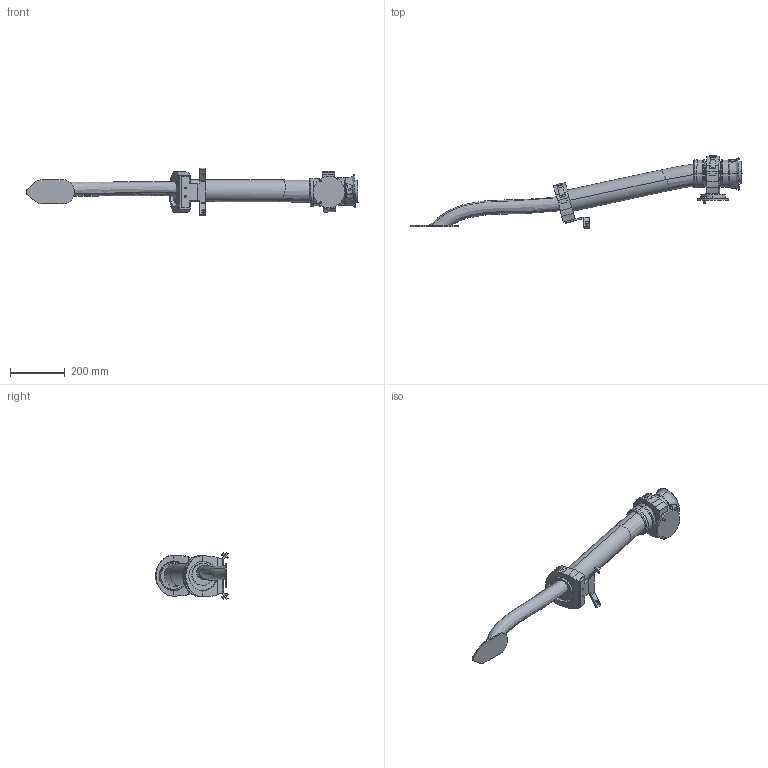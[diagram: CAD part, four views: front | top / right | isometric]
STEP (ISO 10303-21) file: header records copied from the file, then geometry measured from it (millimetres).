
FILE_DESCRIPTION (( 'STEP AP214' ), '1' );
FILE_NAME ('IRB6720-LID_150kg-310_OC_00_LINK04_CABLE.step', '2026-05-26T07:55:48', ( '' ), ( '' ), 'SwSTEP 2.0', 'SolidWorks 2024', '' );
FILE_SCHEMA (( 'AUTOMOTIVE_DESIGN' ));
Length unit declared in the file: millimetre
Products named in the file (1): IRB6720-LID_150kg-310_OC_00_LINK04_CABLE
Bounding box: 1212.1 x 265.02 x 174.65 mm (x, y, z)
Volume: 5966791.3 mm3; surface area: 451000.4 mm2
Topology: 1 solids, 1 shells, 428 faces, 1065 edges, 676 vertices
Faces by surface type: plane 223, cylinder 136, bspline 27, cone 22, torus 16, sphere 4
Entity records: 24558 total; most frequent: CARTESIAN_POINT 14188, ORIENTED_EDGE 2130, DIRECTION 2046, EDGE_CURVE 1065, AXIS2_PLACEMENT_3D 756, VERTEX_POINT 676, LINE 534, VECTOR 534
